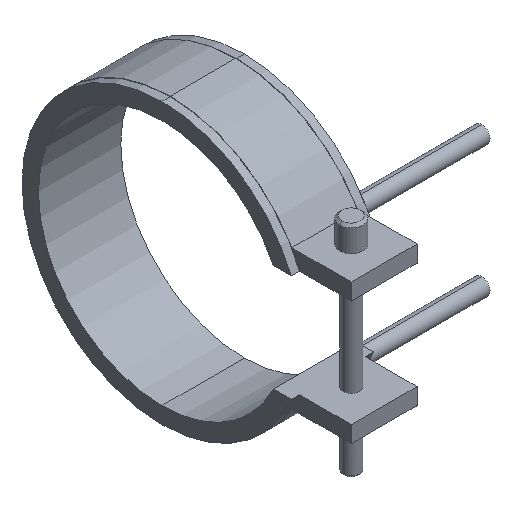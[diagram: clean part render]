
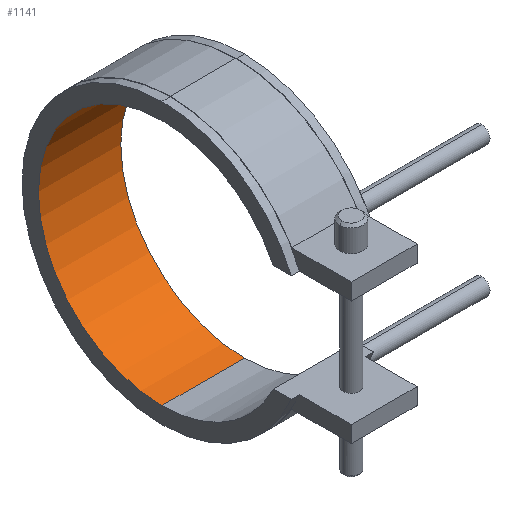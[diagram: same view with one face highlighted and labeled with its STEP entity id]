
A CAD part, isometric view. The second image highlights one B-rep face of the part: STEP entity #1141.
In plain terms, the highlighted cylindrical face has radius 30 mm (diameter 60 mm), a partial arc.
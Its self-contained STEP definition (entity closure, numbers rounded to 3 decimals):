
#822=CARTESIAN_POINT('Vertex',(-10.,0.,-30.)) ;
#829=CARTESIAN_POINT('Vertex',(10.,0.,-30.)) ;
#832=CARTESIAN_POINT('Line Origine',(10.,0.,-30.)) ;
#850=CARTESIAN_POINT('Axis2P3D Location',(-10.,0.,0.)) ;
#854=CARTESIAN_POINT('Vertex',(-10.,0.,30.)) ;
#911=CARTESIAN_POINT('Vertex',(10.,0.,30.)) ;
#921=CARTESIAN_POINT('Line Origine',(10.,0.,30.)) ;
#1012=CARTESIAN_POINT('Axis2P3D Location',(10.,0.,0.)) ;
#1130=CARTESIAN_POINT('Axis2P3D Location',(10.,0.,0.)) ;
#833=DIRECTION('Vector Direction',(1.,0.,0.)) ;
#851=DIRECTION('Axis2P3D Direction',(1.,0.,0.)) ;
#922=DIRECTION('Vector Direction',(1.,0.,0.)) ;
#1013=DIRECTION('Axis2P3D Direction',(1.,0.,0.)) ;
#1131=DIRECTION('Axis2P3D Direction',(1.,0.,-0.)) ;
#1132=DIRECTION('Axis2P3D XDirection',(0.,0.,-1.)) ;
#852=AXIS2_PLACEMENT_3D('Circle Axis2P3D',#850,#851,$) ;
#1014=AXIS2_PLACEMENT_3D('Circle Axis2P3D',#1012,#1013,$) ;
#1133=AXIS2_PLACEMENT_3D('Cylinder Axis2P3D',#1130,#1131,#1132) ;
#1136=ORIENTED_EDGE('',*,*,#1016,.T.) ;
#1137=ORIENTED_EDGE('',*,*,#925,.T.) ;
#1138=ORIENTED_EDGE('',*,*,#856,.F.) ;
#1139=ORIENTED_EDGE('',*,*,#836,.T.) ;
#834=VECTOR('Line Direction',#833,1.) ;
#923=VECTOR('Line Direction',#922,1.) ;
#1141=ADVANCED_FACE('14060020',(#1140),#1134,.F.) ;
#853=CIRCLE('generated circle',#852,30.) ;
#1015=CIRCLE('generated circle',#1014,30.) ;
#1134=CYLINDRICAL_SURFACE('generated cylinder',#1133,30.) ;
#836=EDGE_CURVE('',#823,#830,#835,.T.) ;
#856=EDGE_CURVE('',#823,#855,#853,.T.) ;
#925=EDGE_CURVE('',#912,#855,#924,.F.) ;
#1016=EDGE_CURVE('',#830,#912,#1015,.T.) ;
#1135=EDGE_LOOP('',(#1136,#1137,#1138,#1139)) ;
#1140=FACE_OUTER_BOUND('',#1135,.T.) ;
#835=LINE('Line',#832,#834) ;
#924=LINE('Line',#921,#923) ;
#823=VERTEX_POINT('',#822) ;
#830=VERTEX_POINT('',#829) ;
#855=VERTEX_POINT('',#854) ;
#912=VERTEX_POINT('',#911) ;
